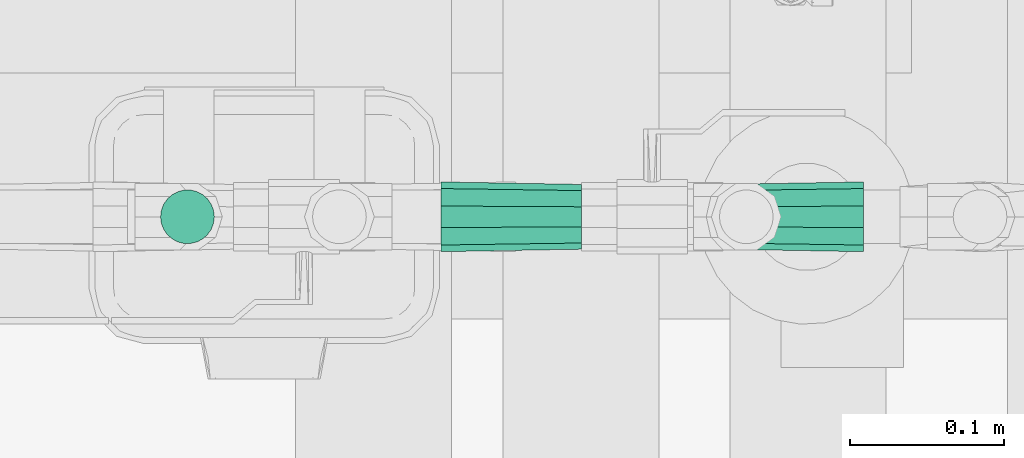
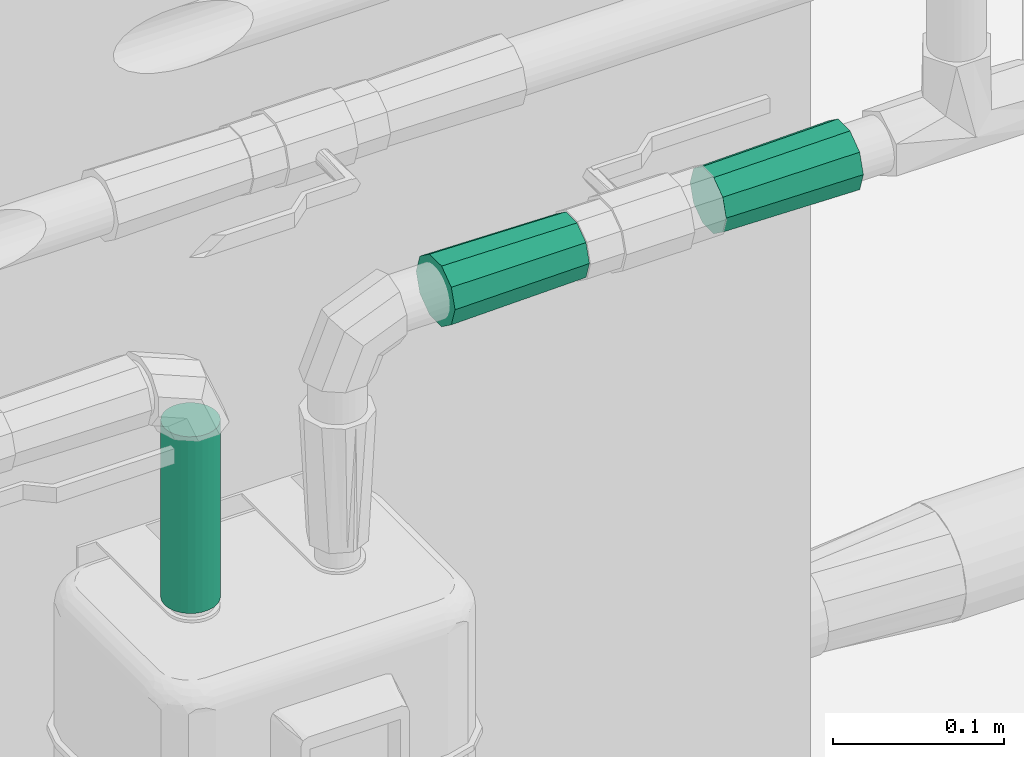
# One storey, part 16 of 43: 2 flow fittings, 1 flow segment.
"""IFC2X3 building model written with IfcOpenShell, lengths in millimetres."""

import ifcopenshell
import ifcopenshell.guid

model = None  # the IFC model being written
_history = None  # IfcOwnerHistory: only IFC2X3 demands one
_inside = {}  # id of a spatial element -> (the spatial element, [elements in it])
_under = {}  # id of a project, library or spatial element -> (it, [spatial elements below it])
_declared = {}  # id of a project -> (the project, [libraries it declares])
_typed = {}  # id of a type object -> (the type object, [elements of that type])
_made_of = {}  # id of a material, layer set ... -> (it, [elements and type objects made of it])


def new_model(schema):
    """Start an empty IFC model of exactly this schema.

    Asked for "IFC4X3", IfcOpenShell would pick the latest addendum, in which some entities
    have other attributes; the version numbers below select the first issue.
    IFC2X3 requires an IfcOwnerHistory on every rooted entity: one is made here for all.
    """
    global model, _history
    if schema == "IFC4X3":
        model = ifcopenshell.file(schema_version=(4, 3, 0, 0))
    else:
        model = ifcopenshell.file(schema=schema)
    _inside.clear()
    _under.clear()
    _declared.clear()
    _typed.clear()
    _made_of.clear()
    _history = None
    if model.schema == "IFC2X3":
        org = make("IfcOrganization", Name="unknown")
        user = make(
            "IfcPersonAndOrganization",
            ThePerson=make("IfcPerson", FamilyName="unknown"),
            TheOrganization=org,
        )
        app = make(
            "IfcApplication",
            ApplicationDeveloper=org,
            Version="unknown",
            ApplicationFullName="unknown",
            ApplicationIdentifier="unknown",
        )
        _history = make(
            "IfcOwnerHistory",
            OwningUser=user,
            OwningApplication=app,
            ChangeAction="ADDED",
            CreationDate=0,
        )
    return model


def make(cls, **values):
    """One entity of the class cls with the attributes given. An attribute that is None is left unset."""
    return model.create_entity(
        cls, **{name: value for name, value in values.items() if value is not None}
    )


def entity(cls, *values):
    """Any entity or typed value of the class cls, its attributes in the order of the schema. None: left unset."""
    e = model.create_entity(cls)
    for i, value in enumerate(values):
        if value is not None:
            e[i] = value
    return e


def rooted(cls, **values):
    """An entity with a GlobalId (a new one), such as an element, a storey or a relation."""
    return make(cls, GlobalId=ifcopenshell.guid.new(), OwnerHistory=_history, **values)


def si_unit(unit_type, name, prefix=None):
    """IfcSIUnit, for example si_unit("LENGTHUNIT", "METRE", prefix="MILLI")."""
    return make("IfcSIUnit", UnitType=unit_type, Prefix=prefix, Name=name)


def converted_unit(unit_type, name, factor, base, dimensions=None, offset=None):
    """IfcConversionBasedUnit, such as the inch: factor (a typed value) times the base unit."""
    return make(
        "IfcConversionBasedUnit"
        if offset is None
        else "IfcConversionBasedUnitWithOffset",
        ConversionOffset=offset,
        Dimensions=None
        if dimensions is None
        else entity("IfcDimensionalExponents", *dimensions),
        UnitType=unit_type,
        Name=name,
        ConversionFactor=make(
            "IfcMeasureWithUnit", ValueComponent=factor, UnitComponent=base
        ),
    )


def derived_unit(unit_type, elements):
    """IfcDerivedUnit: a product of units, each with its exponent."""
    return make(
        "IfcDerivedUnit",
        Elements=[
            make("IfcDerivedUnitElement", Unit=unit, Exponent=power)
            for unit, power in elements
        ],
        UnitType=unit_type,
    )


def assignment(units):
    """IfcUnitAssignment: the units of a project."""
    return None if units is None else make("IfcUnitAssignment", Units=units)


def point(xyz):
    """IfcCartesianPoint."""
    return None if xyz is None else make("IfcCartesianPoint", Coordinates=xyz)


def direction(xyz):
    """IfcDirection."""
    return None if xyz is None else make("IfcDirection", DirectionRatios=xyz)


def frame(location, z_axis=None, x_axis=None):
    """IfcAxis2Placement3D, a coordinate frame: its origin and axes. An axis left out is left unset."""
    return make(
        "IfcAxis2Placement3D",
        Location=point(location),
        Axis=direction(z_axis),
        RefDirection=direction(x_axis),
    )


def frame_2d(location, x_axis=None):
    """IfcAxis2Placement2D, a coordinate frame in the plane: its origin and x axis."""
    return make(
        "IfcAxis2Placement2D", Location=point(location), RefDirection=direction(x_axis)
    )


def origin():
    """The frame at (0, 0, 0) with its axes left unset."""
    return frame((0.0, 0.0, 0.0))


def origin_2d_with_axis():
    """The frame at (0, 0) in the plane with the x axis (1, 0) written out."""
    return frame_2d((0.0, 0.0), x_axis=(1.0, 0.0))


def place(relative_to, where):
    """IfcLocalPlacement: puts the frame where relative to a parent placement (None: the world)."""
    return make(
        "IfcLocalPlacement", PlacementRelTo=relative_to, RelativePlacement=where
    )


def context(
    kind, dimensions, precision=None, world=None, true_north=None, identifier=None
):
    """IfcGeometricRepresentationContext, for example the 3D "Model" context."""
    return make(
        "IfcGeometricRepresentationContext",
        ContextIdentifier=identifier,
        ContextType=kind,
        CoordinateSpaceDimension=dimensions,
        Precision=precision,
        WorldCoordinateSystem=world,
        TrueNorth=true_north,
    )


def subcontext(parent, identifier, kind, view, scale=None):
    """IfcGeometricRepresentationSubContext, for example "Body" below "Model"."""
    return make(
        "IfcGeometricRepresentationSubContext",
        ContextIdentifier=identifier,
        ContextType=kind,
        ParentContext=parent,
        TargetScale=scale,
        TargetView=view,
    )


def project(units=None, contexts=None):
    """IfcProject with its units and contexts."""
    return rooted(
        "IfcProject",
        Name="project",
        RepresentationContexts=contexts,
        UnitsInContext=assignment(units),
    )


def spatial(cls, under=None, at=None, **own):
    """A site, building, storey or space (cls), placed at a placement, below another one or the project."""
    s = rooted(cls, ObjectPlacement=at, **own)
    if under is not None:
        _under.setdefault(under.id(), (under, []))[1].append(s)
    return s


def profile(cls, at=None, kind="AREA", **sizes):
    """A parametric profile (cls). Its sizes go by their IFC names, for example OverallWidth=200.0."""
    return make(cls, ProfileType=kind, Position=at, **sizes)


def circle(**sizes):
    """IfcCircleProfileDef."""
    return profile("IfcCircleProfileDef", **sizes)


def extrude(swept, where, along, depth):
    """IfcExtrudedAreaSolid: the profile swept, set in the frame where, extruded along a direction by depth."""
    return make(
        "IfcExtrudedAreaSolid",
        SweptArea=swept,
        Position=where,
        ExtrudedDirection=direction(along),
        Depth=depth,
    )


def faces_of(points, faces, orient=None, outer=None):
    """IfcFace entities. A face is a list of loops; a loop is a list of indices into points, from 0.

    orient and outer hold one flag for each loop. By default every Orientation is true, the
    first loop of a face is its IfcFaceOuterBound and the others are IfcFaceBound.
    """
    made = []
    for i, loops in enumerate(faces):
        bounds = []
        for j, loop in enumerate(loops):
            is_outer = j == 0 if outer is None else outer[i][j]
            bounds.append(
                make(
                    "IfcFaceOuterBound" if is_outer else "IfcFaceBound",
                    Bound=make("IfcPolyLoop", Polygon=[points[k] for k in loop]),
                    Orientation=True if orient is None else orient[i][j],
                )
            )
        made.append(make("IfcFace", Bounds=bounds))
    return made


def faceted_brep(points, faces, orient=None, outer=None, voids=None):
    """IfcFacetedBrep: a solid bounded by flat faces; with voids (closed shells), ...WithVoids."""
    shared = [point(p) for p in points]
    hull = make("IfcClosedShell", CfsFaces=faces_of(shared, faces, orient, outer))
    if voids is None:
        return make("IfcFacetedBrep", Outer=hull)
    return make(
        "IfcFacetedBrepWithVoids",
        Outer=hull,
        Voids=[
            make(cls, CfsFaces=faces_of(shared, fs, o, b)) for cls, fs, o, b in voids
        ],
    )


def shape(context_of_items, identifier, shape_type, items):
    """IfcShapeRepresentation: the items that make up one representation, for example the "Body"."""
    return make(
        "IfcShapeRepresentation",
        ContextOfItems=context_of_items,
        RepresentationIdentifier=identifier,
        RepresentationType=shape_type,
        Items=items,
    )


def source(mapping_origin, context_of_items, identifier, shape_type, items):
    """IfcRepresentationMap: a shape defined once, which mapped items show again and again."""
    return make(
        "IfcRepresentationMap",
        MappingOrigin=mapping_origin,
        MappedRepresentation=shape(context_of_items, identifier, shape_type, items),
    )


def transform(
    local_origin,
    x_axis=None,
    y_axis=None,
    z_axis=None,
    scale=None,
    scale2=None,
    scale3=None,
    uniform=True,
):
    """IfcCartesianTransformationOperator3D, or its non-uniform kind. x_axis, y_axis, z_axis: its Axis1, 2, 3."""
    if uniform:
        return make(
            "IfcCartesianTransformationOperator3D",
            Axis1=direction(x_axis),
            Axis2=direction(y_axis),
            LocalOrigin=point(local_origin),
            Scale=scale,
            Axis3=direction(z_axis),
        )
    return make(
        "IfcCartesianTransformationOperator3DnonUniform",
        Axis1=direction(x_axis),
        Axis2=direction(y_axis),
        LocalOrigin=point(local_origin),
        Scale=scale,
        Axis3=direction(z_axis),
        Scale2=scale2,
        Scale3=scale3,
    )


def mapped(mapping_source, mapping_target):
    """IfcMappedItem: shows the shape of a source again, moved by a transform."""
    return make(
        "IfcMappedItem", MappingSource=mapping_source, MappingTarget=mapping_target
    )


def material(Name=None, Category=None):
    """IfcMaterial."""
    return make("IfcMaterial", Name=Name, Category=Category)


def made_of(thing, what):
    """Note that an element or type object is made of a material, layer set ...; save() writes the relation."""
    if what is not None:
        _made_of.setdefault(what.id(), (what, []))[1].append(thing)
    return thing


def type_object(cls, material=None, **own):
    """A type object (cls), such as IfcWallType, which elements share."""
    return made_of(rooted(cls, **own), material)


def type_shapes(of_type, sources):
    """Give a type object the sources (RepresentationMaps) that its elements show as mapped items."""
    of_type.RepresentationMaps = sources


def element(
    cls,
    number,
    at=None,
    inside=None,
    cuts=None,
    type_object=None,
    material=None,
    context=None,
    identifier="Body",
    shape_type=None,
    held_by="IfcProductDefinitionShape",
    body=None,
    shapes=None,
    **own,
):
    """One element of the class cls, such as IfcWall. Its Tag is "e" and its number.

    at: its placement. inside: the storey or other place that contains it. cuts: it is an
    opening in that element (IfcRelVoidsElement). A single representation is given by context,
    identifier, shape_type and body (its items); several are given by shapes. held_by: the class
    of the entity that holds the representations. save() writes the other relations.
    """
    e = rooted(cls, Tag="e%d" % number, ObjectPlacement=at, **own)
    if body is not None:
        shapes = [shape(context, identifier, shape_type, body)]
    if shapes is not None:
        e.Representation = make(held_by, Representations=shapes)
    if inside is not None:
        _inside.setdefault(inside.id(), (inside, []))[1].append(e)
    if cuts is not None:
        rooted(
            "IfcRelVoidsElement", RelatingBuildingElement=cuts, RelatedOpeningElement=e
        )
    if type_object is not None:
        _typed.setdefault(type_object.id(), (type_object, []))[1].append(e)
    return made_of(e, material)


def aggregate(whole, parts):
    """IfcRelAggregates: a whole, such as a stair, and the parts it consists of."""
    return rooted("IfcRelAggregates", RelatingObject=whole, RelatedObjects=parts)


def save(model, path):
    """Write the relations noted so far, then the file.

    IfcRelAggregates (storeys below a building ...), IfcRelContainedInSpatialStructure (elements
    in a storey), IfcRelDefinesByType, IfcRelAssociatesMaterial and IfcRelDeclares: one each for
    every whole, place, type object, material and project.
    """
    for whole, parts in _under.values():
        aggregate(whole, parts)
    for where, things in _inside.values():
        rooted(
            "IfcRelContainedInSpatialStructure",
            RelatedElements=things,
            RelatingStructure=where,
        )
    for kind, things in _typed.values():
        rooted("IfcRelDefinesByType", RelatedObjects=things, RelatingType=kind)
    for what, things in _made_of.values():
        rooted("IfcRelAssociatesMaterial", RelatedObjects=things, RelatingMaterial=what)
    for by, libraries in _declared.values():
        rooted("IfcRelDeclares", RelatingContext=by, RelatedDefinitions=libraries)
    model.write(path)


model = new_model("IFC2X3")

# Units and contexts
model_context = context("Model", 3, precision=0.01, world=origin(), true_north=direction((6.123031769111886e-17, 1.0)))
body_context = subcontext(model_context, "Body", "Model", "MODEL_VIEW")
ifc_project = project(units=[si_unit("LENGTHUNIT", "METRE", prefix="MILLI"), si_unit("AREAUNIT", "SQUARE_METRE"), si_unit("VOLUMEUNIT", "CUBIC_METRE"), converted_unit("PLANEANGLEUNIT", "DEGREE", entity("IfcRatioMeasure", 0.017453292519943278), si_unit("PLANEANGLEUNIT", "RADIAN"), dimensions=[0, 0, 0, 0, 0, 0, 0]), si_unit("MASSUNIT", "GRAM", prefix="KILO"), derived_unit("MASSDENSITYUNIT", [(si_unit("MASSUNIT", "GRAM", prefix="KILO"), 1), (si_unit("LENGTHUNIT", "METRE"), -3)]), derived_unit("MOMENTOFINERTIAUNIT", [(si_unit("LENGTHUNIT", "METRE"), 4)]), si_unit("TIMEUNIT", "SECOND"), si_unit("FREQUENCYUNIT", "HERTZ"), si_unit("THERMODYNAMICTEMPERATUREUNIT", "DEGREE_CELSIUS"), derived_unit("THERMALTRANSMITTANCEUNIT", [(si_unit("MASSUNIT", "GRAM", prefix="KILO"), 1), (si_unit("THERMODYNAMICTEMPERATUREUNIT", "KELVIN"), -1), (si_unit("TIMEUNIT", "SECOND"), -3)]), derived_unit("VOLUMETRICFLOWRATEUNIT", [(si_unit("LENGTHUNIT", "METRE"), 3), (si_unit("TIMEUNIT", "SECOND"), -1)]), derived_unit("MASSFLOWRATEUNIT", [(si_unit("MASSUNIT", "GRAM", prefix="KILO"), 1), (si_unit("TIMEUNIT", "SECOND"), -1)]), derived_unit("ROTATIONALFREQUENCYUNIT", [(si_unit("TIMEUNIT", "SECOND"), -1)]), si_unit("ELECTRICCURRENTUNIT", "AMPERE"), si_unit("ELECTRICVOLTAGEUNIT", "VOLT"), si_unit("POWERUNIT", "WATT"), si_unit("FORCEUNIT", "NEWTON", prefix="KILO"), si_unit("ILLUMINANCEUNIT", "LUX"), si_unit("LUMINOUSFLUXUNIT", "LUMEN"), si_unit("LUMINOUSINTENSITYUNIT", "CANDELA"), derived_unit("USERDEFINED", [(si_unit("MASSUNIT", "GRAM", prefix="KILO"), -1), (si_unit("LENGTHUNIT", "METRE"), -2), (si_unit("TIMEUNIT", "SECOND"), 3), (si_unit("LUMINOUSFLUXUNIT", "LUMEN"), 1)]), derived_unit("SOUNDPOWERUNIT", [(si_unit("MASSUNIT", "GRAM", prefix="KILO"), 1), (si_unit("LENGTHUNIT", "METRE"), 2), (si_unit("TIMEUNIT", "SECOND"), -3)]), derived_unit("SOUNDPRESSUREUNIT", [(si_unit("MASSUNIT", "GRAM", prefix="KILO"), 1), (si_unit("LENGTHUNIT", "METRE"), -1), (si_unit("TIMEUNIT", "SECOND"), -2)]), derived_unit("LINEARVELOCITYUNIT", [(si_unit("LENGTHUNIT", "METRE"), 1), (si_unit("TIMEUNIT", "SECOND"), -1)]), si_unit("PRESSUREUNIT", "PASCAL"), derived_unit("USERDEFINED", [(si_unit("LENGTHUNIT", "METRE"), -2), (si_unit("MASSUNIT", "GRAM", prefix="KILO"), 1), (si_unit("TIMEUNIT", "SECOND"), -2)]), derived_unit("LINEARFORCEUNIT", [(si_unit("MASSUNIT", "GRAM", prefix="KILO"), 1), (si_unit("LENGTHUNIT", "METRE"), 1), (si_unit("TIMEUNIT", "SECOND"), -2), (si_unit("LENGTHUNIT", "METRE"), -1)]), derived_unit("PLANARFORCEUNIT", [(si_unit("MASSUNIT", "GRAM", prefix="KILO"), 1), (si_unit("LENGTHUNIT", "METRE"), 1), (si_unit("TIMEUNIT", "SECOND"), -2), (si_unit("LENGTHUNIT", "METRE"), -2)])], contexts=[model_context])

# Site, building, storey
site_placement = place(None, origin())
site = spatial("IfcSite", under=ifc_project, at=site_placement, Name="Default", CompositionType="ELEMENT")
building_placement = place(site_placement, origin())
building = spatial("IfcBuilding", under=site, at=building_placement, CompositionType="ELEMENT")
storey_placement = place(building_placement, frame((0.0, 0.0, 270.0)))
storey = spatial("IfcBuildingStorey", under=building, at=storey_placement, Name="Niveau 0", CompositionType="ELEMENT", Elevation=270.0)

# Flow segment
pipe_segment_type = type_object("IfcPipeSegmentType", Name="Canalisation:tuyau cuivre", PredefinedType="NOTDEFINED")
flow_segment_placement = place(storey_placement, origin())
element("IfcFlowSegment", 1, at=flow_segment_placement, inside=storey, type_object=pipe_segment_type, Name="Canalisation:tuyau cuivre", ObjectType="Canalisation:tuyau cuivre", context=body_context, shape_type="SweptSolid", body=[
    extrude(circle(Radius=17.5, at=origin_2d_with_axis()), frame((-2624.4113194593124, -9894.089173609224, 960.5000000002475)), (0.0, 0.0, 1.0), 125.78828125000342),
])

# Flow fittings
ifc_material = material(Name="<Unnamed>")
pipe_fitting_type = type_object("IfcPipeFittingType", Name="Transformation - Générique:Standard", PredefinedType="NOTDEFINED", material=ifc_material)
shared_shape = source(origin(), body_context, "Body", "Brep", [
    faceted_brep([(91.44531250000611, 17.057301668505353, -12.39285507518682), (91.44531250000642, 19.070643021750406, -6.196427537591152), (91.44531250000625, 21.083984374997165, 0.0), (91.44531250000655, 19.07064302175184, 6.196427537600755), (91.44531250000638, 17.05730166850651, 12.392855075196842), (91.4453125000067, 11.786305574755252, 16.222457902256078), (91.44531250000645, 6.515309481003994, 20.052060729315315), (91.44531250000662, 0.0, 20.052060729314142), (91.44531250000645, -6.51530948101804, 20.052060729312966), (91.44531250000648, -11.786305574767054, 16.222457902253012), (91.44531250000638, -17.057301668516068, 12.392855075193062), (91.44531250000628, -19.070643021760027, 6.196427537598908), (91.44531250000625, -21.083984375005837, 0.0), (91.44531250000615, -19.070643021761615, -6.196427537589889), (91.44531250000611, -17.057301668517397, -12.392855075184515), (91.44531250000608, -11.786305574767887, -16.22245790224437), (91.44531250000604, -6.515309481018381, -20.05206072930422), (91.44531250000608, 0.0, -20.052060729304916), (91.44531250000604, 6.5153094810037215, -20.052060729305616), (91.44531250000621, 11.78630557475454, -16.222457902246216), (0.0, 22.708984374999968, 0.0), (0.0, 20.556774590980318, -6.623820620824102), (0.0, 18.371954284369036, -13.348006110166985), (0.0, 12.694708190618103, -17.47276683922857), (0.0, 7.017462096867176, -21.59752756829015), (0.0, 0.0, -21.597527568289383), (0.0, -7.017462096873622, -21.59752756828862), (0.0, -12.694708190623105, -17.47276683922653), (0.0, -18.37195428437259, -13.348006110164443), (0.0, -20.556774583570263, -6.623820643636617), (0.0, -22.708984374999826, 0.0), (0.0, -20.556774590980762, 6.623820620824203), (0.0, -18.371954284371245, 13.348006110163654), (0.0, -12.694708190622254, 17.47276683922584), (0.0, -7.017462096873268, 21.597527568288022), (0.0, 0.0, 21.597527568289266), (0.0, 7.017462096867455, 21.597527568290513), (0.0, 12.694708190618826, 17.472766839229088), (0.0, 18.371954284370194, 13.348006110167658), (0.0, 20.556774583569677, 6.623820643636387)], [[[0, 1, 2, 3, 4, 5, 6, 7, 8, 9, 10, 11, 12, 13, 14, 15, 16, 17, 18, 19]], [[20, 21, 22, 23, 24, 25, 26, 27, 28, 29, 30, 31, 32, 33, 34, 35, 36, 37, 38, 39]], [[22, 21, 20, 2, 1, 0]], [[28, 14, 13, 12, 30, 29]], [[0, 19, 18, 24, 23, 22]], [[26, 25, 24, 18, 17, 16]], [[16, 15, 14, 28, 27, 26]], [[32, 31, 30, 12, 11, 10]], [[38, 4, 3, 2, 20, 39]], [[10, 9, 8, 34, 33, 32]], [[36, 35, 34, 8, 7, 6]], [[6, 5, 4, 38, 37, 36]]]),
])
type_shapes(pipe_fitting_type, [shared_shape])
flow_fitting_1_placement = place(storey_placement, frame((-2184.448234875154, -9894.08917360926, 1120.4999999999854), z_axis=(0.0, 0.0, 1.0), x_axis=(-1.0, 0.0, 0.0)))
element("IfcFlowFitting", 2, at=flow_fitting_1_placement, inside=storey, type_object=pipe_fitting_type, material=ifc_material, Name="Transformation - Générique:Standard", ObjectType="Transformation - Générique:Standard", context=body_context, shape_type="MappedRepresentation", body=[
    mapped(shared_shape, transform((0.0, 0.0, 0.0), scale=1.0)),
])
flow_fitting_2_placement = place(storey_placement, frame((-2459.413859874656, -9894.089173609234, 1120.4999999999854)))
element("IfcFlowFitting", 3, at=flow_fitting_2_placement, inside=storey, type_object=pipe_fitting_type, material=ifc_material, Name="Transformation - Générique:Standard", ObjectType="Transformation - Générique:Standard", context=body_context, shape_type="MappedRepresentation", body=[
    mapped(shared_shape, transform((0.0, 0.0, 0.0), scale=1.0)),
])

save(model, "model.ifc")
